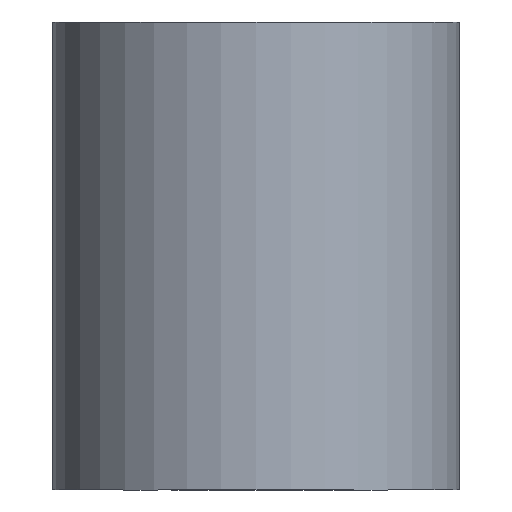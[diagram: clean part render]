
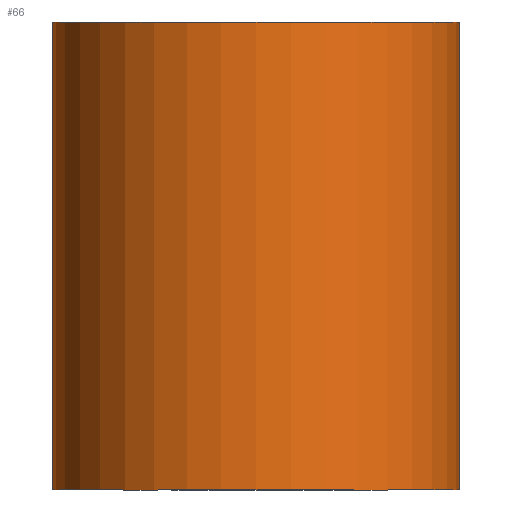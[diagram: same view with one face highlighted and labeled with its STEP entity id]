
A CAD part, front view. The second image highlights one B-rep face of the part: STEP entity #66.
In plain terms, the highlighted cylindrical face has radius 5.25 mm (diameter 10.5 mm), a full revolution.
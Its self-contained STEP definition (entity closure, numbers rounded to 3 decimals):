
#24=FACE_OUTER_BOUND('',#28,.T.);
#28=EDGE_LOOP('',(#55,#56,#57,#58));
#34=LINE('',#129,#36);
#36=VECTOR('',#108,5.25);
#39=CIRCLE('',#88,5.25);
#40=CIRCLE('',#89,5.25);
#43=VERTEX_POINT('',#126);
#44=VERTEX_POINT('',#128);
#48=EDGE_CURVE('',#43,#43,#39,.T.);
#49=EDGE_CURVE('',#43,#44,#34,.T.);
#50=EDGE_CURVE('',#44,#44,#40,.T.);
#55=ORIENTED_EDGE('',*,*,#48,.F.);
#56=ORIENTED_EDGE('',*,*,#49,.T.);
#57=ORIENTED_EDGE('',*,*,#50,.T.);
#58=ORIENTED_EDGE('',*,*,#49,.F.);
#64=CYLINDRICAL_SURFACE('',#87,5.25);
#66=ADVANCED_FACE('',(#24),#64,.T.);
#87=AXIS2_PLACEMENT_3D('',#125,#104,#105);
#88=AXIS2_PLACEMENT_3D('',#127,#106,#107);
#89=AXIS2_PLACEMENT_3D('',#130,#109,#110);
#104=DIRECTION('center_axis',(0.,1.,0.));
#105=DIRECTION('ref_axis',(-1.,0.,0.));
#106=DIRECTION('center_axis',(0.,1.,0.));
#107=DIRECTION('ref_axis',(-1.,0.,0.));
#108=DIRECTION('',(0.,-1.,0.));
#109=DIRECTION('center_axis',(0.,1.,0.));
#110=DIRECTION('ref_axis',(-1.,0.,0.));
#125=CARTESIAN_POINT('Origin',(-293.,2.295,-27.));
#126=CARTESIAN_POINT('',(-287.75,14.395,-27.));
#127=CARTESIAN_POINT('Origin',(-293.,14.395,-27.));
#128=CARTESIAN_POINT('',(-287.75,2.295,-27.));
#129=CARTESIAN_POINT('',(-287.75,2.295,-27.));
#130=CARTESIAN_POINT('Origin',(-293.,2.295,-27.));
